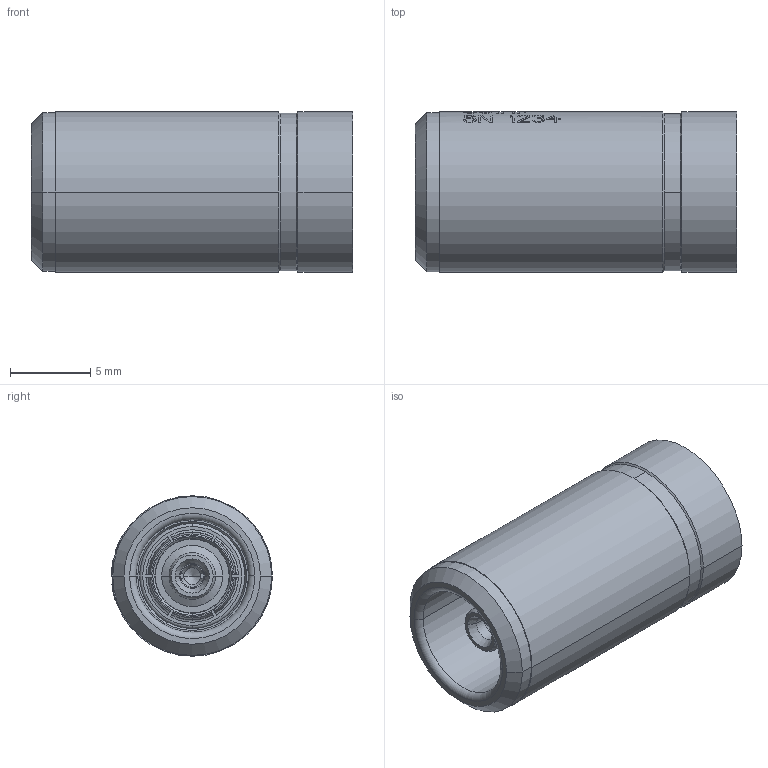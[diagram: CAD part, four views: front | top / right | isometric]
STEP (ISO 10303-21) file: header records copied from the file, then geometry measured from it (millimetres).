
FILE_DESCRIPTION((''),'2;1');
FILE_NAME('CS1HP','2009-07-30T',('11000065'),(''),'PRO/ENGINEER BY PARAMETRIC TECHNOLOGY CORPORATION, 2008490','PRO/ENGINEER BY PARAMETRIC TECHNOLOGY CORPORATION, 2008490','');
FILE_SCHEMA(('AUTOMOTIVE_DESIGN { 1 2 10303 214 0 1 1 1 }'));
Length unit declared in the file: millimetre
Products named in the file (1): CS1HP
Bounding box: 20 x 10.03 x 10 mm (x, y, z)
Volume: 1230.7 mm3; surface area: 1351.5 mm2
Topology: 1 solids, 5 shells, 784 faces, 2213 edges, 1473 vertices
Faces by surface type: plane 646, cylinder 80, cone 34, torus 24
Entity records: 33303 total; most frequent: CARTESIAN_POINT 6371, ORIENTED_EDGE 4422, DIRECTION 3305, PRESENTATION_STYLE_ASSIGNMENT 2319, STYLED_ITEM 2216, CURVE_STYLE 2211, EDGE_CURVE 2211, VERTEX_POINT 1473
